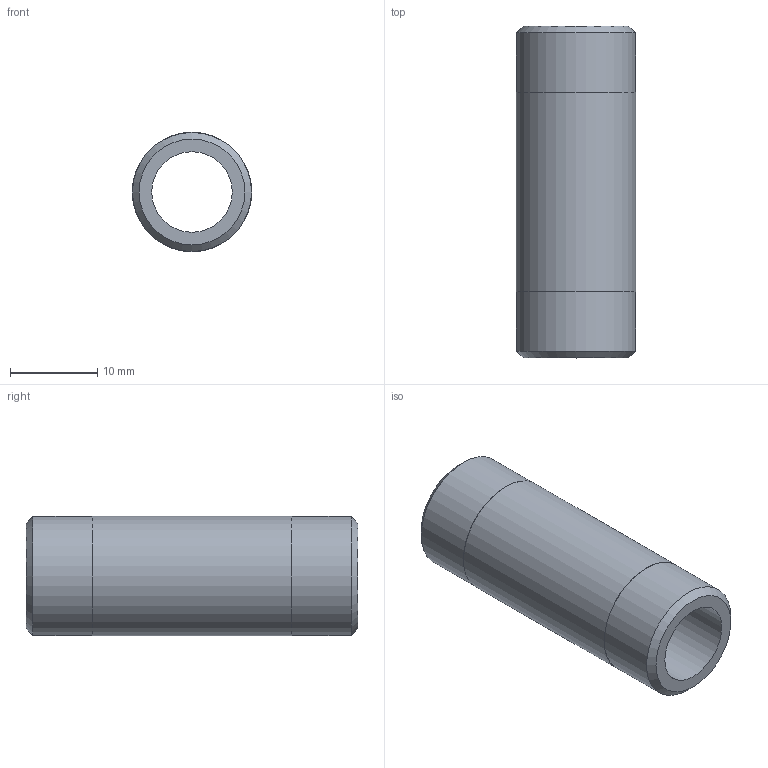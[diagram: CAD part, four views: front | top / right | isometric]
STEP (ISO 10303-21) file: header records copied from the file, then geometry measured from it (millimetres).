
FILE_DESCRIPTION(/* description */ (''),/* implementation_level */ '2;1');
FILE_NAME(/* name */ 'C:/Users/drich/Desktop/BPN14-1-1_2 v1.step',/* time_stamp */ '2020-01-03T14:36:31-06:00',/* author */ (''),/* organization */ (''),/* preprocessor_version */ 'ST-DEVELOPER v18',/* originating_system */ 'Autodesk Translation Framework v8.12.0.6',/* authorisation */ '');
FILE_SCHEMA (('AUTOMOTIVE_DESIGN { 1 0 10303 214 3 1 1 }'));
Length unit declared in the file: inch
Products named in the file (1): BPN14-1-1_2
Bounding box: 13.72 x 38.1 x 13.72 mm (x, y, z)
Volume: 3030.9 mm3; surface area: 2867.4 mm2
Topology: 1 solids, 1 shells, 10 faces, 24 edges, 18 vertices
Faces by surface type: cylinder 4, plane 4, cone 2
Full cylindrical faces by diameter (mm): 9.246 x1, 13.665 x2, 13.716 x1
Entity records: 360 total; most frequent: DIRECTION 64, CARTESIAN_POINT 53, ORIENTED_EDGE 48, AXIS2_PLACEMENT_3D 29, EDGE_CURVE 24, CIRCLE 18, VERTEX_POINT 18, EDGE_LOOP 14
